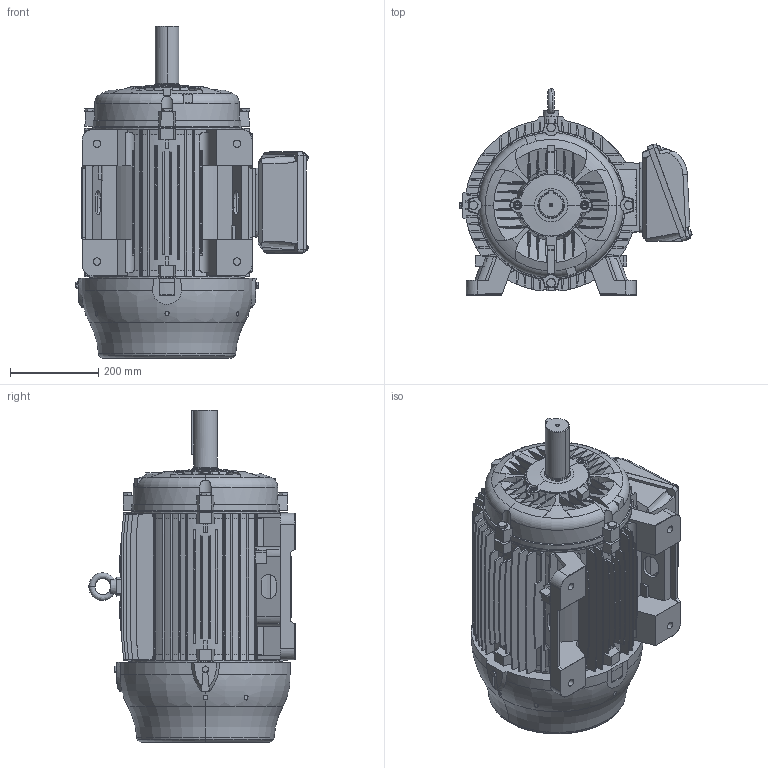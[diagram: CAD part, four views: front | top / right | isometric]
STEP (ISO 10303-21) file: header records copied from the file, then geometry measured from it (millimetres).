
FILE_DESCRIPTION (( 'STEP AP203' ), '1' );
FILE_NAME ('324T_RIGHT.STEP', '2010-07-05T14:17:32', ( 'WEG Indústrias Elétricas S.A' ), ( 'WEG Indústrias Elétricas S.A' ), 'SwSTEP 2.0', 'SolidWorks 2009', '' );
FILE_SCHEMA (( 'CONFIG_CONTROL_DESIGN' ));
Length unit declared in the file: millimetre
Products named in the file (1): 324T_RIGHT
Bounding box: 525.98 x 467.2 x 751.86 mm (x, y, z)
Volume: 64265308.2 mm3; surface area: 2867333.8 mm2
Topology: 23 solids, 29 shells, 2671 faces, 7336 edges, 4823 vertices
Faces by surface type: cylinder 1241, plane 897, cone 280, bspline 198, torus 53, sphere 2
Entity records: 96232 total; most frequent: CARTESIAN_POINT 29161, ORIENTED_EDGE 14668, DIRECTION 13594, EDGE_CURVE 7334, AXIS2_PLACEMENT_3D 5399, VERTEX_POINT 4823, CIRCLE 2925, EDGE_LOOP 2917
